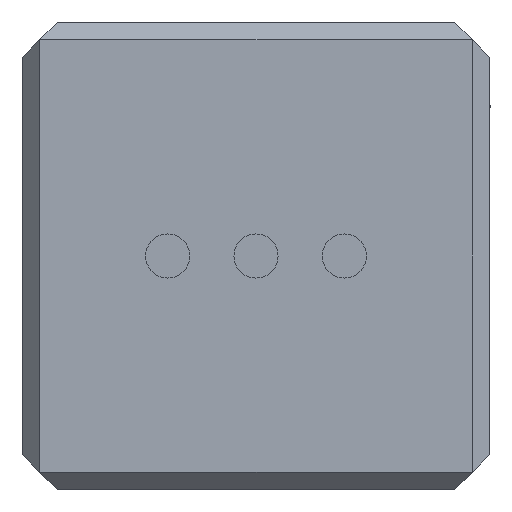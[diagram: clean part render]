
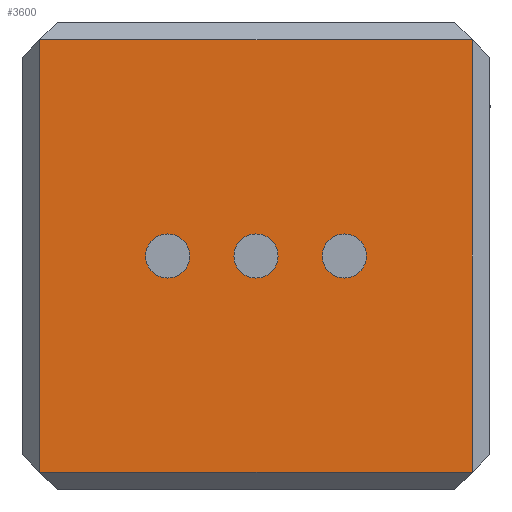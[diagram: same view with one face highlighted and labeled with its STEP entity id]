
A CAD part, front view. The second image highlights one B-rep face of the part: STEP entity #3600.
In plain terms, the highlighted planar face has unit normal (0, -1, 0).
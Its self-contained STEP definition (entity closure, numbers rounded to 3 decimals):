
#152 = CARTESIAN_POINT ( 'NONE',  ( 0., 0., 2.5 ) ) ;
#166 = DIRECTION ( 'NONE',  ( 0., -1., 0. ) ) ;
#298 = VERTEX_POINT ( 'NONE', #1208 ) ;
#329 = ORIENTED_EDGE ( 'NONE', *, *, #1629, .T. ) ;
#377 = PLANE ( 'NONE',  #2108 ) ;
#384 = VERTEX_POINT ( 'NONE', #2655 ) ;
#474 = VECTOR ( 'NONE', #3825, 1000. ) ;
#638 = LINE ( 'NONE', #2217, #474 ) ;
#651 = VERTEX_POINT ( 'NONE', #4397 ) ;
#653 = CARTESIAN_POINT ( 'NONE',  ( -10., 0., 0. ) ) ;
#696 = CARTESIAN_POINT ( 'NONE',  ( 0., 0., 0. ) ) ;
#748 = FACE_BOUND ( 'NONE', #3073, .T. ) ;
#829 = DIRECTION ( 'NONE',  ( 0., 0., -1. ) ) ;
#871 = CARTESIAN_POINT ( 'NONE',  ( -10., 0., -2.5 ) ) ;
#928 = VECTOR ( 'NONE', #4988, 1000. ) ;
#1057 = ORIENTED_EDGE ( 'NONE', *, *, #4485, .T. ) ;
#1091 = AXIS2_PLACEMENT_3D ( 'NONE', #3681, #4470, #1287 ) ;
#1136 = DIRECTION ( 'NONE',  ( 0., -1., 0. ) ) ;
#1199 = VERTEX_POINT ( 'NONE', #4003 ) ;
#1208 = CARTESIAN_POINT ( 'NONE',  ( 24.5, 0., -24.5 ) ) ;
#1271 = CARTESIAN_POINT ( 'NONE',  ( 26.5, 0., -24.5 ) ) ;
#1287 = DIRECTION ( 'NONE',  ( 0., 0., -1. ) ) ;
#1340 = CIRCLE ( 'NONE', #2012, 2.5 ) ;
#1415 = EDGE_LOOP ( 'NONE', ( #2618, #3692 ) ) ;
#1450 = DIRECTION ( 'NONE',  ( 0., 0., -1. ) ) ;
#1590 = VECTOR ( 'NONE', #4314, 1000. ) ;
#1601 = CARTESIAN_POINT ( 'NONE',  ( 10., 0., -2.5 ) ) ;
#1629 = EDGE_CURVE ( 'NONE', #1199, #4242, #2700, .T. ) ;
#1644 = DIRECTION ( 'NONE',  ( 0., -1., 0. ) ) ;
#1754 = LINE ( 'NONE', #1271, #2922 ) ;
#1778 = LINE ( 'NONE', #3397, #928 ) ;
#1932 = ORIENTED_EDGE ( 'NONE', *, *, #4979, .F. ) ;
#1980 = DIRECTION ( 'NONE',  ( 0., 0., -1. ) ) ;
#2012 = AXIS2_PLACEMENT_3D ( 'NONE', #2403, #1644, #3307 ) ;
#2024 = DIRECTION ( 'NONE',  ( 0., 0., -1. ) ) ;
#2053 = ORIENTED_EDGE ( 'NONE', *, *, #4119, .F. ) ;
#2083 = CIRCLE ( 'NONE', #4854, 2.5 ) ;
#2108 = AXIS2_PLACEMENT_3D ( 'NONE', #2755, #166, #2523 ) ;
#2149 = CARTESIAN_POINT ( 'NONE',  ( -24.5, 0., -24.5 ) ) ;
#2191 = EDGE_CURVE ( 'NONE', #2231, #651, #3854, .T. ) ;
#2200 = AXIS2_PLACEMENT_3D ( 'NONE', #3183, #3135, #2024 ) ;
#2217 = CARTESIAN_POINT ( 'NONE',  ( -26.5, 0., 24.5 ) ) ;
#2231 = VERTEX_POINT ( 'NONE', #1601 ) ;
#2403 = CARTESIAN_POINT ( 'NONE',  ( -10., 0., 0. ) ) ;
#2523 = DIRECTION ( 'NONE',  ( 0., 0., -1. ) ) ;
#2567 = ORIENTED_EDGE ( 'NONE', *, *, #2191, .F. ) ;
#2601 = AXIS2_PLACEMENT_3D ( 'NONE', #653, #3060, #1450 ) ;
#2618 = ORIENTED_EDGE ( 'NONE', *, *, #4132, .F. ) ;
#2655 = CARTESIAN_POINT ( 'NONE',  ( 0., 0., -2.5 ) ) ;
#2700 = LINE ( 'NONE', #4362, #1590 ) ;
#2755 = CARTESIAN_POINT ( 'NONE',  ( 0., 0., 0. ) ) ;
#2781 = ORIENTED_EDGE ( 'NONE', *, *, #3162, .F. ) ;
#2802 = EDGE_LOOP ( 'NONE', ( #1057, #3769, #329, #4409 ) ) ;
#2922 = VECTOR ( 'NONE', #3689, 1000. ) ;
#3060 = DIRECTION ( 'NONE',  ( 0., -1., 0. ) ) ;
#3061 = VERTEX_POINT ( 'NONE', #871 ) ;
#3067 = VERTEX_POINT ( 'NONE', #152 ) ;
#3073 = EDGE_LOOP ( 'NONE', ( #2567, #2053 ) ) ;
#3135 = DIRECTION ( 'NONE',  ( 0., -1., 0. ) ) ;
#3156 = FACE_OUTER_BOUND ( 'NONE', #2802, .T. ) ;
#3162 = EDGE_CURVE ( 'NONE', #3061, #4703, #4615, .T. ) ;
#3183 = CARTESIAN_POINT ( 'NONE',  ( 10., 0., 0. ) ) ;
#3303 = CIRCLE ( 'NONE', #2200, 2.5 ) ;
#3307 = DIRECTION ( 'NONE',  ( 0., 0., -1. ) ) ;
#3397 = CARTESIAN_POINT ( 'NONE',  ( 24.5, 0., 26.5 ) ) ;
#3600 = ADVANCED_FACE ( 'NONE', ( #4730, #748, #4751, #3156 ), #377, .T. ) ;
#3637 = DIRECTION ( 'NONE',  ( 0., -1., 0. ) ) ;
#3681 = CARTESIAN_POINT ( 'NONE',  ( 10., 0., 0. ) ) ;
#3689 = DIRECTION ( 'NONE',  ( 1., 0., 0. ) ) ;
#3692 = ORIENTED_EDGE ( 'NONE', *, *, #3698, .F. ) ;
#3698 = EDGE_CURVE ( 'NONE', #3067, #384, #4300, .T. ) ;
#3769 = ORIENTED_EDGE ( 'NONE', *, *, #3918, .T. ) ;
#3825 = DIRECTION ( 'NONE',  ( -1., 0., 0. ) ) ;
#3854 = CIRCLE ( 'NONE', #1091, 2.5 ) ;
#3868 = VERTEX_POINT ( 'NONE', #5076 ) ;
#3918 = EDGE_CURVE ( 'NONE', #3868, #1199, #638, .T. ) ;
#4003 = CARTESIAN_POINT ( 'NONE',  ( -24.5, 0., 24.5 ) ) ;
#4119 = EDGE_CURVE ( 'NONE', #651, #2231, #3303, .T. ) ;
#4132 = EDGE_CURVE ( 'NONE', #384, #3067, #2083, .T. ) ;
#4242 = VERTEX_POINT ( 'NONE', #2149 ) ;
#4244 = EDGE_CURVE ( 'NONE', #4242, #298, #1754, .T. ) ;
#4300 = CIRCLE ( 'NONE', #4958, 2.5 ) ;
#4314 = DIRECTION ( 'NONE',  ( 0., 0., -1. ) ) ;
#4362 = CARTESIAN_POINT ( 'NONE',  ( -24.5, 0., -26.5 ) ) ;
#4378 = CARTESIAN_POINT ( 'NONE',  ( 0., 0., 0. ) ) ;
#4397 = CARTESIAN_POINT ( 'NONE',  ( 10., 0., 2.5 ) ) ;
#4409 = ORIENTED_EDGE ( 'NONE', *, *, #4244, .T. ) ;
#4470 = DIRECTION ( 'NONE',  ( 0., -1., 0. ) ) ;
#4485 = EDGE_CURVE ( 'NONE', #298, #3868, #1778, .T. ) ;
#4615 = CIRCLE ( 'NONE', #2601, 2.5 ) ;
#4618 = CARTESIAN_POINT ( 'NONE',  ( -10., 0., 2.5 ) ) ;
#4703 = VERTEX_POINT ( 'NONE', #4618 ) ;
#4730 = FACE_BOUND ( 'NONE', #1415, .T. ) ;
#4751 = FACE_BOUND ( 'NONE', #4788, .T. ) ;
#4788 = EDGE_LOOP ( 'NONE', ( #2781, #1932 ) ) ;
#4854 = AXIS2_PLACEMENT_3D ( 'NONE', #4378, #3637, #829 ) ;
#4958 = AXIS2_PLACEMENT_3D ( 'NONE', #696, #1136, #1980 ) ;
#4979 = EDGE_CURVE ( 'NONE', #4703, #3061, #1340, .T. ) ;
#4988 = DIRECTION ( 'NONE',  ( 0., 0., 1. ) ) ;
#5076 = CARTESIAN_POINT ( 'NONE',  ( 24.5, 0., 24.5 ) ) ;
